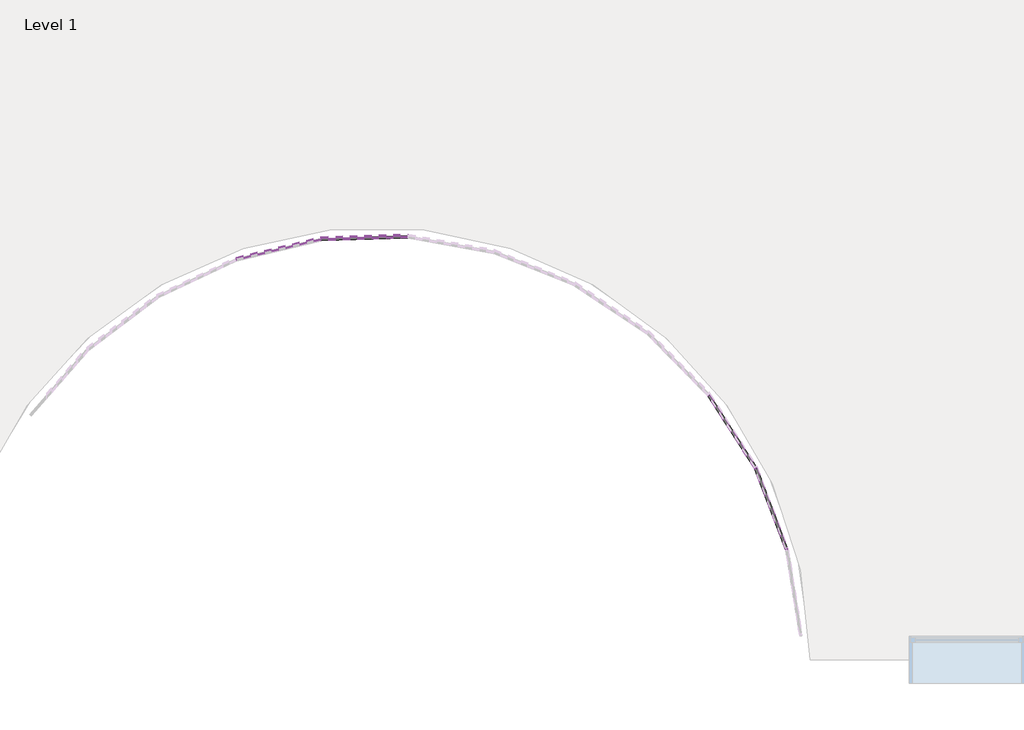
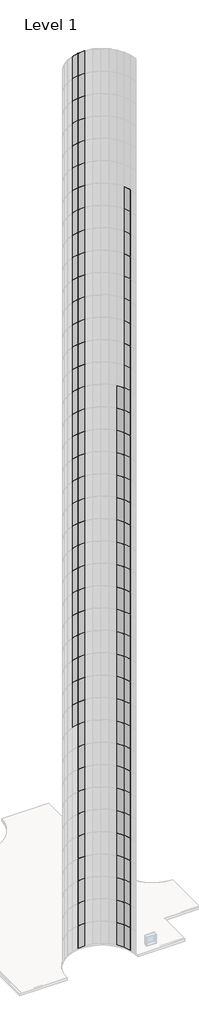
# One storey, part 8 of 19: 129 plates.
"""IFC4 building model written with IfcOpenShell, lengths in millimetres."""

from ifc_helpers import new_model, si_unit, origin, place, context, project, spatial, transform, mapped, element, save
from components import system_panel_glazed_d77d1ebf

model = new_model("IFC4")

# Units and contexts
model_context = context("Model", 3, world=origin())
ifc_project = project(units=[si_unit("LENGTHUNIT", "METRE", prefix="MILLI")], contexts=[model_context])

# Site, building, storey
site = spatial("IfcSite", under=ifc_project)
building = spatial("IfcBuilding", under=site)
storey = spatial("IfcBuildingStorey", under=building, Name="Level 1", Elevation=0.0)

# Plates
placement = place(None, origin())
system_panel_glazed_shape = system_panel_glazed_d77d1ebf(model_context)
element("IfcPlate", 1, ObjectType="System Panel : Glazed", at=placement, inside=storey, context=model_context, shape_type="MappedRepresentation", body=[
    mapped(system_panel_glazed_shape, transform((2482.9364739, -17126.4039912, 30480.0), x_axis=(-0.9722724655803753, -0.23385091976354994, 0.0), y_axis=(0.23385091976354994, -0.9722724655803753, 0.0), z_axis=(0.0, 0.0, 1.0))),
])
element("IfcPlate", 2, ObjectType="System Panel : Glazed", at=placement, inside=storey, context=model_context, shape_type="MappedRepresentation", body=[
    mapped(system_panel_glazed_shape, transform((2482.9364739, -17126.4039912, 33528.0), x_axis=(-0.9722724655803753, -0.23385091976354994, 0.0), y_axis=(0.23385091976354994, -0.9722724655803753, 0.0), z_axis=(0.0, 0.0, 1.0))),
])
element("IfcPlate", 3, ObjectType="System Panel : Glazed", at=placement, inside=storey, context=model_context, shape_type="MappedRepresentation", body=[
    mapped(system_panel_glazed_shape, transform((2482.9364739, -17126.4039912, 36576.0), x_axis=(-0.9722724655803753, -0.23385091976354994, 0.0), y_axis=(0.23385091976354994, -0.9722724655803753, 0.0), z_axis=(0.0, 0.0, 1.0))),
])
element("IfcPlate", 4, ObjectType="System Panel : Glazed", at=placement, inside=storey, context=model_context, shape_type="MappedRepresentation", body=[
    mapped(system_panel_glazed_shape, transform((2482.9364739, -17126.4039912, 39624.0), x_axis=(-0.9722724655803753, -0.23385091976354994, 0.0), y_axis=(0.23385091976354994, -0.9722724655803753, 0.0), z_axis=(0.0, 0.0, 1.0))),
])
element("IfcPlate", 5, ObjectType="System Panel : Glazed", at=placement, inside=storey, context=model_context, shape_type="MappedRepresentation", body=[
    mapped(system_panel_glazed_shape, transform((2482.9364739, -17126.4039912, 42672.0), x_axis=(-0.9722724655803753, -0.23385091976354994, 0.0), y_axis=(0.23385091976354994, -0.9722724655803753, 0.0), z_axis=(0.0, 0.0, 1.0))),
])
element("IfcPlate", 6, ObjectType="System Panel : Glazed", at=placement, inside=storey, context=model_context, shape_type="MappedRepresentation", body=[
    mapped(system_panel_glazed_shape, transform((2482.9364739, -17126.4039912, 45720.0), x_axis=(-0.9722724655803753, -0.23385091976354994, 0.0), y_axis=(0.23385091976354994, -0.9722724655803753, 0.0), z_axis=(0.0, 0.0, 1.0))),
])
element("IfcPlate", 7, ObjectType="System Panel : Glazed", at=placement, inside=storey, context=model_context, shape_type="MappedRepresentation", body=[
    mapped(system_panel_glazed_shape, transform((2482.9364739, -17126.4039912, 48768.0), x_axis=(-0.9722724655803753, -0.23385091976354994, 0.0), y_axis=(0.23385091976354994, -0.9722724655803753, 0.0), z_axis=(0.0, 0.0, 1.0))),
])
element("IfcPlate", 8, ObjectType="System Panel : Glazed", at=placement, inside=storey, context=model_context, shape_type="MappedRepresentation", body=[
    mapped(system_panel_glazed_shape, transform((2482.9364739, -17126.4039912, 51816.0), x_axis=(-0.9722724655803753, -0.23385091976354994, 0.0), y_axis=(0.23385091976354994, -0.9722724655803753, 0.0), z_axis=(0.0, 0.0, 1.0))),
])
element("IfcPlate", 9, ObjectType="System Panel : Glazed", at=placement, inside=storey, context=model_context, shape_type="MappedRepresentation", body=[
    mapped(system_panel_glazed_shape, transform((2482.9364739, -17126.4039912, 54864.0), x_axis=(-0.9722724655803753, -0.23385091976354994, 0.0), y_axis=(0.23385091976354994, -0.9722724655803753, 0.0), z_axis=(0.0, 0.0, 1.0))),
])
element("IfcPlate", 10, ObjectType="System Panel : Glazed", at=placement, inside=storey, context=model_context, shape_type="MappedRepresentation", body=[
    mapped(system_panel_glazed_shape, transform((2482.9364739, -17126.4039912, 57912.0), x_axis=(-0.9722724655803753, -0.23385091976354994, 0.0), y_axis=(0.23385091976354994, -0.9722724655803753, 0.0), z_axis=(0.0, 0.0, 1.0))),
])
element("IfcPlate", 11, ObjectType="System Panel : Glazed", at=placement, inside=storey, context=model_context, shape_type="MappedRepresentation", body=[
    mapped(system_panel_glazed_shape, transform((2482.9364739, -17126.4039912, 60960.0), x_axis=(-0.9722724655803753, -0.23385091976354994, 0.0), y_axis=(0.23385091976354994, -0.9722724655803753, 0.0), z_axis=(0.0, 0.0, 1.0))),
])
element("IfcPlate", 12, ObjectType="System Panel : Glazed", at=placement, inside=storey, context=model_context, shape_type="MappedRepresentation", body=[
    mapped(system_panel_glazed_shape, transform((2482.9364739, -17126.4039912, 64008.0), x_axis=(-0.9722724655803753, -0.23385091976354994, 0.0), y_axis=(0.23385091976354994, -0.9722724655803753, 0.0), z_axis=(0.0, 0.0, 1.0))),
])
element("IfcPlate", 13, ObjectType="System Panel : Glazed", at=placement, inside=storey, context=model_context, shape_type="MappedRepresentation", body=[
    mapped(system_panel_glazed_shape, transform((2482.9364739, -17126.4039912, 67056.0), x_axis=(-0.9722724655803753, -0.23385091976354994, 0.0), y_axis=(0.23385091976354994, -0.9722724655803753, 0.0), z_axis=(0.0, 0.0, 1.0))),
])
element("IfcPlate", 14, ObjectType="System Panel : Glazed", at=placement, inside=storey, context=model_context, shape_type="MappedRepresentation", body=[
    mapped(system_panel_glazed_shape, transform((2482.9364739, -17126.4039912, 70104.0), x_axis=(-0.9722724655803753, -0.23385091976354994, 0.0), y_axis=(0.23385091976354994, -0.9722724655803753, 0.0), z_axis=(0.0, 0.0, 1.0))),
])
element("IfcPlate", 15, ObjectType="System Panel : Glazed", at=placement, inside=storey, context=model_context, shape_type="MappedRepresentation", body=[
    mapped(system_panel_glazed_shape, transform((2482.9364739, -17126.4039912, 73152.0), x_axis=(-0.9722724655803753, -0.23385091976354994, 0.0), y_axis=(0.23385091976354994, -0.9722724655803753, 0.0), z_axis=(0.0, 0.0, 1.0))),
])
element("IfcPlate", 16, ObjectType="System Panel : Glazed", at=placement, inside=storey, context=model_context, shape_type="MappedRepresentation", body=[
    mapped(system_panel_glazed_shape, transform((2482.9364739, -17126.4039912, 76200.0), x_axis=(-0.9722724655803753, -0.23385091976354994, 0.0), y_axis=(0.23385091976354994, -0.9722724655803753, 0.0), z_axis=(0.0, 0.0, 1.0))),
])
element("IfcPlate", 17, ObjectType="System Panel : Glazed", at=placement, inside=storey, context=model_context, shape_type="MappedRepresentation", body=[
    mapped(system_panel_glazed_shape, transform((2482.9364739, -17126.4039912, 79248.0), x_axis=(-0.9722724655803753, -0.23385091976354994, 0.0), y_axis=(0.23385091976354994, -0.9722724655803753, 0.0), z_axis=(0.0, 0.0, 1.0))),
])
element("IfcPlate", 18, ObjectType="System Panel : Glazed", at=placement, inside=storey, context=model_context, shape_type="MappedRepresentation", body=[
    mapped(system_panel_glazed_shape, transform((2482.9364739, -17126.4039912, 82296.0), x_axis=(-0.9722724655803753, -0.23385091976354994, 0.0), y_axis=(0.23385091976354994, -0.9722724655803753, 0.0), z_axis=(0.0, 0.0, 1.0))),
])
element("IfcPlate", 19, ObjectType="System Panel : Glazed", at=placement, inside=storey, context=model_context, shape_type="MappedRepresentation", body=[
    mapped(system_panel_glazed_shape, transform((2482.9364739, -17126.4039912, 85344.0), x_axis=(-0.9722724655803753, -0.23385091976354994, 0.0), y_axis=(0.23385091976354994, -0.9722724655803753, 0.0), z_axis=(0.0, 0.0, 1.0))),
])
element("IfcPlate", 20, ObjectType="System Panel : Glazed", at=placement, inside=storey, context=model_context, shape_type="MappedRepresentation", body=[
    mapped(system_panel_glazed_shape, transform((2482.9364739, -17126.4039912, 88392.0), x_axis=(-0.9722724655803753, -0.23385091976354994, 0.0), y_axis=(0.23385091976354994, -0.9722724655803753, 0.0), z_axis=(0.0, 0.0, 1.0))),
])
element("IfcPlate", 21, ObjectType="System Panel : Glazed", at=placement, inside=storey, context=model_context, shape_type="MappedRepresentation", body=[
    mapped(system_panel_glazed_shape, transform((2482.9364739, -17126.4039912, 91440.0), x_axis=(-0.9722724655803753, -0.23385091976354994, 0.0), y_axis=(0.23385091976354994, -0.9722724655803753, 0.0), z_axis=(0.0, 0.0, 1.0))),
])
element("IfcPlate", 22, ObjectType="System Panel : Glazed", at=placement, inside=storey, context=model_context, shape_type="MappedRepresentation", body=[
    mapped(system_panel_glazed_shape, transform((2482.9364739, -17126.4039912, 94488.0), x_axis=(-0.9722724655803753, -0.23385091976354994, 0.0), y_axis=(0.23385091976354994, -0.9722724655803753, 0.0), z_axis=(0.0, 0.0, 1.0))),
])
element("IfcPlate", 23, ObjectType="System Panel : Glazed", at=placement, inside=storey, context=model_context, shape_type="MappedRepresentation", body=[
    mapped(system_panel_glazed_shape, transform((2482.9364739, -17126.4039912, 97536.0), x_axis=(-0.9722724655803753, -0.23385091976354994, 0.0), y_axis=(0.23385091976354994, -0.9722724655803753, 0.0), z_axis=(0.0, 0.0, 1.0))),
])
element("IfcPlate", 24, ObjectType="System Panel : Glazed", at=placement, inside=storey, context=model_context, shape_type="MappedRepresentation", body=[
    mapped(system_panel_glazed_shape, transform((2482.9364739, -17126.4039912, 100584.0), x_axis=(-0.9722724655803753, -0.23385091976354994, 0.0), y_axis=(0.23385091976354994, -0.9722724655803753, 0.0), z_axis=(0.0, 0.0, 1.0))),
])
element("IfcPlate", 25, ObjectType="System Panel : Glazed", at=placement, inside=storey, context=model_context, shape_type="MappedRepresentation", body=[
    mapped(system_panel_glazed_shape, transform((7650.278647, -19847.6713508, 0.0), x_axis=(-0.35724345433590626, 0.9340113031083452, 0.0), y_axis=(-0.9340113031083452, -0.35724345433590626, 0.0), z_axis=(0.0, 0.0, 1.0))),
])
element("IfcPlate", 26, ObjectType="System Panel : Glazed", at=placement, inside=storey, context=model_context, shape_type="MappedRepresentation", body=[
    mapped(system_panel_glazed_shape, transform((7650.278647, -19847.6713508, 3048.0), x_axis=(-0.35724345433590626, 0.9340113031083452, 0.0), y_axis=(-0.9340113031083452, -0.35724345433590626, 0.0), z_axis=(0.0, 0.0, 1.0))),
])
element("IfcPlate", 27, ObjectType="System Panel : Glazed", at=placement, inside=storey, context=model_context, shape_type="MappedRepresentation", body=[
    mapped(system_panel_glazed_shape, transform((7650.278647, -19847.6713508, 6096.0), x_axis=(-0.35724345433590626, 0.9340113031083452, 0.0), y_axis=(-0.9340113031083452, -0.35724345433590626, 0.0), z_axis=(0.0, 0.0, 1.0))),
])
element("IfcPlate", 28, ObjectType="System Panel : Glazed", at=placement, inside=storey, context=model_context, shape_type="MappedRepresentation", body=[
    mapped(system_panel_glazed_shape, transform((7650.278647, -19847.6713508, 9144.0), x_axis=(-0.35724345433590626, 0.9340113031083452, 0.0), y_axis=(-0.9340113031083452, -0.35724345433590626, 0.0), z_axis=(0.0, 0.0, 1.0))),
])
element("IfcPlate", 29, ObjectType="System Panel : Glazed", at=placement, inside=storey, context=model_context, shape_type="MappedRepresentation", body=[
    mapped(system_panel_glazed_shape, transform((7650.278647, -19847.6713508, 12192.0), x_axis=(-0.35724345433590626, 0.9340113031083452, 0.0), y_axis=(-0.9340113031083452, -0.35724345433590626, 0.0), z_axis=(0.0, 0.0, 1.0))),
])
element("IfcPlate", 30, ObjectType="System Panel : Glazed", at=placement, inside=storey, context=model_context, shape_type="MappedRepresentation", body=[
    mapped(system_panel_glazed_shape, transform((7650.278647, -19847.6713508, 15240.0), x_axis=(-0.35724345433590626, 0.9340113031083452, 0.0), y_axis=(-0.9340113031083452, -0.35724345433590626, 0.0), z_axis=(0.0, 0.0, 1.0))),
])
element("IfcPlate", 31, ObjectType="System Panel : Glazed", at=placement, inside=storey, context=model_context, shape_type="MappedRepresentation", body=[
    mapped(system_panel_glazed_shape, transform((7650.278647, -19847.6713508, 18288.0), x_axis=(-0.35724345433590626, 0.9340113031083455, 0.0), y_axis=(-0.9340113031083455, -0.35724345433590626, 0.0), z_axis=(0.0, 0.0, 1.0))),
])
element("IfcPlate", 32, ObjectType="System Panel : Glazed", at=placement, inside=storey, context=model_context, shape_type="MappedRepresentation", body=[
    mapped(system_panel_glazed_shape, transform((7650.278647, -19847.6713508, 21336.0), x_axis=(-0.35724345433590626, 0.9340113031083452, 0.0), y_axis=(-0.9340113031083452, -0.35724345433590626, 0.0), z_axis=(0.0, 0.0, 1.0))),
])
element("IfcPlate", 33, ObjectType="System Panel : Glazed", at=placement, inside=storey, context=model_context, shape_type="MappedRepresentation", body=[
    mapped(system_panel_glazed_shape, transform((7650.278647, -19847.6713508, 24384.0), x_axis=(-0.35724345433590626, 0.9340113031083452, 0.0), y_axis=(-0.9340113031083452, -0.35724345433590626, 0.0), z_axis=(0.0, 0.0, 1.0))),
])
element("IfcPlate", 34, ObjectType="System Panel : Glazed", at=placement, inside=storey, context=model_context, shape_type="MappedRepresentation", body=[
    mapped(system_panel_glazed_shape, transform((7650.278647, -19847.6713508, 27432.0), x_axis=(-0.35724345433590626, 0.9340113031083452, 0.0), y_axis=(-0.9340113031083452, -0.35724345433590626, 0.0), z_axis=(0.0, 0.0, 1.0))),
])
element("IfcPlate", 35, ObjectType="System Panel : Glazed", at=placement, inside=storey, context=model_context, shape_type="MappedRepresentation", body=[
    mapped(system_panel_glazed_shape, transform((7650.278647, -19847.6713508, 30480.0), x_axis=(-0.35724345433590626, 0.9340113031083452, 0.0), y_axis=(-0.9340113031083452, -0.35724345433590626, 0.0), z_axis=(0.0, 0.0, 1.0))),
])
element("IfcPlate", 36, ObjectType="System Panel : Glazed", at=placement, inside=storey, context=model_context, shape_type="MappedRepresentation", body=[
    mapped(system_panel_glazed_shape, transform((7650.278647, -19847.6713508, 33528.0), x_axis=(-0.35724345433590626, 0.9340113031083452, 0.0), y_axis=(-0.9340113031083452, -0.35724345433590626, 0.0), z_axis=(0.0, 0.0, 1.0))),
])
element("IfcPlate", 37, ObjectType="System Panel : Glazed", at=placement, inside=storey, context=model_context, shape_type="MappedRepresentation", body=[
    mapped(system_panel_glazed_shape, transform((7650.278647, -19847.6713508, 36576.0), x_axis=(-0.35724345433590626, 0.9340113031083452, 0.0), y_axis=(-0.9340113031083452, -0.35724345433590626, 0.0), z_axis=(0.0, 0.0, 1.0))),
])
element("IfcPlate", 38, ObjectType="System Panel : Glazed", at=placement, inside=storey, context=model_context, shape_type="MappedRepresentation", body=[
    mapped(system_panel_glazed_shape, transform((7650.278647, -19847.6713508, 39624.0), x_axis=(-0.35724345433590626, 0.9340113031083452, 0.0), y_axis=(-0.9340113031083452, -0.35724345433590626, 0.0), z_axis=(0.0, 0.0, 1.0))),
])
element("IfcPlate", 39, ObjectType="System Panel : Glazed", at=placement, inside=storey, context=model_context, shape_type="MappedRepresentation", body=[
    mapped(system_panel_glazed_shape, transform((7650.278647, -19847.6713508, 42672.0), x_axis=(-0.35724345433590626, 0.9340113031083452, 0.0), y_axis=(-0.9340113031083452, -0.35724345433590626, 0.0), z_axis=(0.0, 0.0, 1.0))),
])
element("IfcPlate", 40, ObjectType="System Panel : Glazed", at=placement, inside=storey, context=model_context, shape_type="MappedRepresentation", body=[
    mapped(system_panel_glazed_shape, transform((7650.278647, -19847.6713508, 45720.0), x_axis=(-0.35724345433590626, 0.9340113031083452, 0.0), y_axis=(-0.9340113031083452, -0.35724345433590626, 0.0), z_axis=(0.0, 0.0, 1.0))),
])
element("IfcPlate", 41, ObjectType="System Panel : Glazed", at=placement, inside=storey, context=model_context, shape_type="MappedRepresentation", body=[
    mapped(system_panel_glazed_shape, transform((7650.278647, -19847.6713508, 48768.0), x_axis=(-0.35724345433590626, 0.9340113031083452, 0.0), y_axis=(-0.9340113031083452, -0.35724345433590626, 0.0), z_axis=(0.0, 0.0, 1.0))),
])
element("IfcPlate", 42, ObjectType="System Panel : Glazed", at=placement, inside=storey, context=model_context, shape_type="MappedRepresentation", body=[
    mapped(system_panel_glazed_shape, transform((7650.278647, -19847.6713508, 51816.0), x_axis=(-0.35724345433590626, 0.9340113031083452, 0.0), y_axis=(-0.9340113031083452, -0.35724345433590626, 0.0), z_axis=(0.0, 0.0, 1.0))),
])
element("IfcPlate", 43, ObjectType="System Panel : Glazed", at=placement, inside=storey, context=model_context, shape_type="MappedRepresentation", body=[
    mapped(system_panel_glazed_shape, transform((7650.278647, -19847.6713508, 54864.0), x_axis=(-0.35724345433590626, 0.9340113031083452, 0.0), y_axis=(-0.9340113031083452, -0.35724345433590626, 0.0), z_axis=(0.0, 0.0, 1.0))),
])
element("IfcPlate", 44, ObjectType="System Panel : Glazed", at=placement, inside=storey, context=model_context, shape_type="MappedRepresentation", body=[
    mapped(system_panel_glazed_shape, transform((7650.278647, -19847.6713508, 57912.0), x_axis=(-0.35724345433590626, 0.9340113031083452, 0.0), y_axis=(-0.9340113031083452, -0.35724345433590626, 0.0), z_axis=(0.0, 0.0, 1.0))),
])
element("IfcPlate", 45, ObjectType="System Panel : Glazed", at=placement, inside=storey, context=model_context, shape_type="MappedRepresentation", body=[
    mapped(system_panel_glazed_shape, transform((7650.278647, -19847.6713508, 60960.0), x_axis=(-0.35724345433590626, 0.9340113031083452, 0.0), y_axis=(-0.9340113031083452, -0.35724345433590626, 0.0), z_axis=(0.0, 0.0, 1.0))),
])
element("IfcPlate", 46, ObjectType="System Panel : Glazed", at=placement, inside=storey, context=model_context, shape_type="MappedRepresentation", body=[
    mapped(system_panel_glazed_shape, transform((7650.278647, -19847.6713508, 64008.0), x_axis=(-0.35724345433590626, 0.9340113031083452, 0.0), y_axis=(-0.9340113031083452, -0.35724345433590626, 0.0), z_axis=(0.0, 0.0, 1.0))),
])
element("IfcPlate", 47, ObjectType="System Panel : Glazed", at=placement, inside=storey, context=model_context, shape_type="MappedRepresentation", body=[
    mapped(system_panel_glazed_shape, transform((7650.278647, -19847.6713508, 67056.0), x_axis=(-0.35724345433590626, 0.9340113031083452, 0.0), y_axis=(-0.9340113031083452, -0.35724345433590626, 0.0), z_axis=(0.0, 0.0, 1.0))),
])
element("IfcPlate", 48, ObjectType="System Panel : Glazed", at=placement, inside=storey, context=model_context, shape_type="MappedRepresentation", body=[
    mapped(system_panel_glazed_shape, transform((7650.278647, -19847.6713508, 70104.0), x_axis=(-0.35724345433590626, 0.9340113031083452, 0.0), y_axis=(-0.9340113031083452, -0.35724345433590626, 0.0), z_axis=(0.0, 0.0, 1.0))),
])
element("IfcPlate", 49, ObjectType="System Panel : Glazed", at=placement, inside=storey, context=model_context, shape_type="MappedRepresentation", body=[
    mapped(system_panel_glazed_shape, transform((7650.278647, -19847.6713508, 73152.0), x_axis=(-0.35724345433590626, 0.9340113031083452, 0.0), y_axis=(-0.9340113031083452, -0.35724345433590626, 0.0), z_axis=(0.0, 0.0, 1.0))),
])
element("IfcPlate", 50, ObjectType="System Panel : Glazed", at=placement, inside=storey, context=model_context, shape_type="MappedRepresentation", body=[
    mapped(system_panel_glazed_shape, transform((7650.278647, -19847.6713508, 76200.0), x_axis=(-0.35724345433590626, 0.9340113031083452, 0.0), y_axis=(-0.9340113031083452, -0.35724345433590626, 0.0), z_axis=(0.0, 0.0, 1.0))),
])
element("IfcPlate", 51, ObjectType="System Panel : Glazed", at=placement, inside=storey, context=model_context, shape_type="MappedRepresentation", body=[
    mapped(system_panel_glazed_shape, transform((7650.278647, -19847.6713508, 79248.0), x_axis=(-0.35724345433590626, 0.9340113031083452, 0.0), y_axis=(-0.9340113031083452, -0.35724345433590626, 0.0), z_axis=(0.0, 0.0, 1.0))),
])
element("IfcPlate", 52, ObjectType="System Panel : Glazed", at=placement, inside=storey, context=model_context, shape_type="MappedRepresentation", body=[
    mapped(system_panel_glazed_shape, transform((7650.278647, -19847.6713508, 82296.0), x_axis=(-0.35724345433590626, 0.9340113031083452, 0.0), y_axis=(-0.9340113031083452, -0.35724345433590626, 0.0), z_axis=(0.0, 0.0, 1.0))),
])
element("IfcPlate", 53, ObjectType="System Panel : Glazed", at=placement, inside=storey, context=model_context, shape_type="MappedRepresentation", body=[
    mapped(system_panel_glazed_shape, transform((7650.278647, -19847.6713508, 85344.0), x_axis=(-0.35724345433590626, 0.9340113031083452, 0.0), y_axis=(-0.9340113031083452, -0.35724345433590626, 0.0), z_axis=(0.0, 0.0, 1.0))),
])
element("IfcPlate", 54, ObjectType="System Panel : Glazed", at=placement, inside=storey, context=model_context, shape_type="MappedRepresentation", body=[
    mapped(system_panel_glazed_shape, transform((7650.278647, -19847.6713508, 88392.0), x_axis=(-0.35724345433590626, 0.9340113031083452, 0.0), y_axis=(-0.9340113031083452, -0.35724345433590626, 0.0), z_axis=(0.0, 0.0, 1.0))),
])
element("IfcPlate", 55, ObjectType="System Panel : Glazed", at=placement, inside=storey, context=model_context, shape_type="MappedRepresentation", body=[
    mapped(system_panel_glazed_shape, transform((7650.278647, -19847.6713508, 91440.0), x_axis=(-0.35724345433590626, 0.9340113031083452, 0.0), y_axis=(-0.9340113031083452, -0.35724345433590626, 0.0), z_axis=(0.0, 0.0, 1.0))),
])
element("IfcPlate", 56, ObjectType="System Panel : Glazed", at=placement, inside=storey, context=model_context, shape_type="MappedRepresentation", body=[
    mapped(system_panel_glazed_shape, transform((7650.278647, -19847.6713508, 94488.0), x_axis=(-0.35724345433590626, 0.9340113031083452, 0.0), y_axis=(-0.9340113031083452, -0.35724345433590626, 0.0), z_axis=(0.0, 0.0, 1.0))),
])
element("IfcPlate", 57, ObjectType="System Panel : Glazed", at=placement, inside=storey, context=model_context, shape_type="MappedRepresentation", body=[
    mapped(system_panel_glazed_shape, transform((7650.278647, -19847.6713508, 97536.0), x_axis=(-0.35724345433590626, 0.9340113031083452, 0.0), y_axis=(-0.9340113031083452, -0.35724345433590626, 0.0), z_axis=(0.0, 0.0, 1.0))),
])
element("IfcPlate", 58, ObjectType="System Panel : Glazed", at=placement, inside=storey, context=model_context, shape_type="MappedRepresentation", body=[
    mapped(system_panel_glazed_shape, transform((7650.278647, -19847.6713508, 100584.0), x_axis=(-0.35724345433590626, 0.9340113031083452, 0.0), y_axis=(-0.9340113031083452, -0.35724345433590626, 0.0), z_axis=(0.0, 0.0, 1.0))),
])
element("IfcPlate", 59, ObjectType="System Panel : Glazed", at=placement, inside=storey, context=model_context, shape_type="MappedRepresentation", body=[
    mapped(system_panel_glazed_shape, transform((7239.747729, -19036.0319834, 0.0), x_axis=(-0.5406806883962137, 0.8412279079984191, 0.0), y_axis=(-0.8412279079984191, -0.5406806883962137, 0.0), z_axis=(0.0, 0.0, 1.0))),
])
element("IfcPlate", 60, ObjectType="System Panel : Glazed", at=placement, inside=storey, context=model_context, shape_type="MappedRepresentation", body=[
    mapped(system_panel_glazed_shape, transform((7239.747729, -19036.0319834, 3048.0), x_axis=(-0.5406806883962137, 0.8412279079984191, 0.0), y_axis=(-0.8412279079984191, -0.5406806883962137, 0.0), z_axis=(0.0, 0.0, 1.0))),
])
element("IfcPlate", 61, ObjectType="System Panel : Glazed", at=placement, inside=storey, context=model_context, shape_type="MappedRepresentation", body=[
    mapped(system_panel_glazed_shape, transform((7239.747729, -19036.0319834, 6096.0), x_axis=(-0.5406806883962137, 0.8412279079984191, 0.0), y_axis=(-0.8412279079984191, -0.5406806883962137, 0.0), z_axis=(0.0, 0.0, 1.0))),
])
element("IfcPlate", 62, ObjectType="System Panel : Glazed", at=placement, inside=storey, context=model_context, shape_type="MappedRepresentation", body=[
    mapped(system_panel_glazed_shape, transform((7239.747729, -19036.0319834, 9144.0), x_axis=(-0.5406806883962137, 0.8412279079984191, 0.0), y_axis=(-0.8412279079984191, -0.5406806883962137, 0.0), z_axis=(0.0, 0.0, 1.0))),
])
element("IfcPlate", 63, ObjectType="System Panel : Glazed", at=placement, inside=storey, context=model_context, shape_type="MappedRepresentation", body=[
    mapped(system_panel_glazed_shape, transform((7239.747729, -19036.0319834, 12192.0), x_axis=(-0.5406806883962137, 0.8412279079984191, 0.0), y_axis=(-0.8412279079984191, -0.5406806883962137, 0.0), z_axis=(0.0, 0.0, 1.0))),
])
element("IfcPlate", 64, ObjectType="System Panel : Glazed", at=placement, inside=storey, context=model_context, shape_type="MappedRepresentation", body=[
    mapped(system_panel_glazed_shape, transform((7239.747729, -19036.0319834, 15240.0), x_axis=(-0.5406806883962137, 0.8412279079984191, 0.0), y_axis=(-0.8412279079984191, -0.5406806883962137, 0.0), z_axis=(0.0, 0.0, 1.0))),
])
element("IfcPlate", 65, ObjectType="System Panel : Glazed", at=placement, inside=storey, context=model_context, shape_type="MappedRepresentation", body=[
    mapped(system_panel_glazed_shape, transform((7239.747729, -19036.0319834, 18288.0), x_axis=(-0.5406806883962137, 0.8412279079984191, 0.0), y_axis=(-0.8412279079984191, -0.5406806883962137, 0.0), z_axis=(0.0, 0.0, 1.0))),
])
element("IfcPlate", 66, ObjectType="System Panel : Glazed", at=placement, inside=storey, context=model_context, shape_type="MappedRepresentation", body=[
    mapped(system_panel_glazed_shape, transform((7239.747729, -19036.0319834, 21336.0), x_axis=(-0.5406806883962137, 0.8412279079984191, 0.0), y_axis=(-0.8412279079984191, -0.5406806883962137, 0.0), z_axis=(0.0, 0.0, 1.0))),
])
element("IfcPlate", 67, ObjectType="System Panel : Glazed", at=placement, inside=storey, context=model_context, shape_type="MappedRepresentation", body=[
    mapped(system_panel_glazed_shape, transform((7239.747729, -19036.0319834, 24384.0), x_axis=(-0.5406806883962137, 0.8412279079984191, 0.0), y_axis=(-0.8412279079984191, -0.5406806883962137, 0.0), z_axis=(0.0, 0.0, 1.0))),
])
element("IfcPlate", 68, ObjectType="System Panel : Glazed", at=placement, inside=storey, context=model_context, shape_type="MappedRepresentation", body=[
    mapped(system_panel_glazed_shape, transform((7239.747729, -19036.0319834, 27432.0), x_axis=(-0.5406806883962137, 0.8412279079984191, 0.0), y_axis=(-0.8412279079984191, -0.5406806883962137, 0.0), z_axis=(0.0, 0.0, 1.0))),
])
element("IfcPlate", 69, ObjectType="System Panel : Glazed", at=placement, inside=storey, context=model_context, shape_type="MappedRepresentation", body=[
    mapped(system_panel_glazed_shape, transform((7239.747729, -19036.0319834, 30480.0), x_axis=(-0.5406806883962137, 0.8412279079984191, 0.0), y_axis=(-0.8412279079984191, -0.5406806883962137, 0.0), z_axis=(0.0, 0.0, 1.0))),
])
element("IfcPlate", 70, ObjectType="System Panel : Glazed", at=placement, inside=storey, context=model_context, shape_type="MappedRepresentation", body=[
    mapped(system_panel_glazed_shape, transform((7239.747729, -19036.0319834, 33528.0), x_axis=(-0.5406806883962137, 0.8412279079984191, 0.0), y_axis=(-0.8412279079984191, -0.5406806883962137, 0.0), z_axis=(0.0, 0.0, 1.0))),
])
element("IfcPlate", 71, ObjectType="System Panel : Glazed", at=placement, inside=storey, context=model_context, shape_type="MappedRepresentation", body=[
    mapped(system_panel_glazed_shape, transform((7239.747729, -19036.0319834, 36576.0), x_axis=(-0.5406806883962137, 0.8412279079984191, 0.0), y_axis=(-0.8412279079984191, -0.5406806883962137, 0.0), z_axis=(0.0, 0.0, 1.0))),
])
element("IfcPlate", 72, ObjectType="System Panel : Glazed", at=placement, inside=storey, context=model_context, shape_type="MappedRepresentation", body=[
    mapped(system_panel_glazed_shape, transform((7239.747729, -19036.0319834, 39624.0), x_axis=(-0.5406806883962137, 0.8412279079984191, 0.0), y_axis=(-0.8412279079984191, -0.5406806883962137, 0.0), z_axis=(0.0, 0.0, 1.0))),
])
element("IfcPlate", 73, ObjectType="System Panel : Glazed", at=placement, inside=storey, context=model_context, shape_type="MappedRepresentation", body=[
    mapped(system_panel_glazed_shape, transform((7239.747729, -19036.0319834, 42672.0), x_axis=(-0.5406806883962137, 0.8412279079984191, 0.0), y_axis=(-0.8412279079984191, -0.5406806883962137, 0.0), z_axis=(0.0, 0.0, 1.0))),
])
element("IfcPlate", 74, ObjectType="System Panel : Glazed", at=placement, inside=storey, context=model_context, shape_type="MappedRepresentation", body=[
    mapped(system_panel_glazed_shape, transform((7239.747729, -19036.0319834, 45720.0), x_axis=(-0.5406806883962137, 0.8412279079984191, 0.0), y_axis=(-0.8412279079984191, -0.5406806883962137, 0.0), z_axis=(0.0, 0.0, 1.0))),
])
element("IfcPlate", 75, ObjectType="System Panel : Glazed", at=placement, inside=storey, context=model_context, shape_type="MappedRepresentation", body=[
    mapped(system_panel_glazed_shape, transform((7239.747729, -19036.0319834, 48768.0), x_axis=(-0.5406806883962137, 0.8412279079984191, 0.0), y_axis=(-0.8412279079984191, -0.5406806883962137, 0.0), z_axis=(0.0, 0.0, 1.0))),
])
element("IfcPlate", 76, ObjectType="System Panel : Glazed", at=placement, inside=storey, context=model_context, shape_type="MappedRepresentation", body=[
    mapped(system_panel_glazed_shape, transform((7239.747729, -19036.0319834, 51816.0), x_axis=(-0.5406806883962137, 0.8412279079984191, 0.0), y_axis=(-0.8412279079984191, -0.5406806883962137, 0.0), z_axis=(0.0, 0.0, 1.0))),
])
element("IfcPlate", 77, ObjectType="System Panel : Glazed", at=placement, inside=storey, context=model_context, shape_type="MappedRepresentation", body=[
    mapped(system_panel_glazed_shape, transform((7239.747729, -19036.0319834, 54864.0), x_axis=(-0.5406806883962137, 0.8412279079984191, 0.0), y_axis=(-0.8412279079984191, -0.5406806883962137, 0.0), z_axis=(0.0, 0.0, 1.0))),
])
element("IfcPlate", 78, ObjectType="System Panel : Glazed", at=placement, inside=storey, context=model_context, shape_type="MappedRepresentation", body=[
    mapped(system_panel_glazed_shape, transform((7239.747729, -19036.0319834, 57912.0), x_axis=(-0.5406806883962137, 0.8412279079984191, 0.0), y_axis=(-0.8412279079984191, -0.5406806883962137, 0.0), z_axis=(0.0, 0.0, 1.0))),
])
element("IfcPlate", 79, ObjectType="System Panel : Glazed", at=placement, inside=storey, context=model_context, shape_type="MappedRepresentation", body=[
    mapped(system_panel_glazed_shape, transform((7239.747729, -19036.0319834, 60960.0), x_axis=(-0.5406806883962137, 0.8412279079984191, 0.0), y_axis=(-0.8412279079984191, -0.5406806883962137, 0.0), z_axis=(0.0, 0.0, 1.0))),
])
element("IfcPlate", 80, ObjectType="System Panel : Glazed", at=placement, inside=storey, context=model_context, shape_type="MappedRepresentation", body=[
    mapped(system_panel_glazed_shape, transform((7239.747729, -19036.0319834, 64008.0), x_axis=(-0.5406806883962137, 0.8412279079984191, 0.0), y_axis=(-0.8412279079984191, -0.5406806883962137, 0.0), z_axis=(0.0, 0.0, 1.0))),
])
element("IfcPlate", 81, ObjectType="System Panel : Glazed", at=placement, inside=storey, context=model_context, shape_type="MappedRepresentation", body=[
    mapped(system_panel_glazed_shape, transform((7239.747729, -19036.0319834, 67056.0), x_axis=(-0.5406806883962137, 0.8412279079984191, 0.0), y_axis=(-0.8412279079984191, -0.5406806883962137, 0.0), z_axis=(0.0, 0.0, 1.0))),
])
element("IfcPlate", 82, ObjectType="System Panel : Glazed", at=placement, inside=storey, context=model_context, shape_type="MappedRepresentation", body=[
    mapped(system_panel_glazed_shape, transform((7239.747729, -19036.0319834, 70104.0), x_axis=(-0.5406806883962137, 0.8412279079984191, 0.0), y_axis=(-0.8412279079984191, -0.5406806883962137, 0.0), z_axis=(0.0, 0.0, 1.0))),
])
element("IfcPlate", 83, ObjectType="System Panel : Glazed", at=placement, inside=storey, context=model_context, shape_type="MappedRepresentation", body=[
    mapped(system_panel_glazed_shape, transform((7239.747729, -19036.0319834, 73152.0), x_axis=(-0.5406806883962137, 0.8412279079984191, 0.0), y_axis=(-0.8412279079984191, -0.5406806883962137, 0.0), z_axis=(0.0, 0.0, 1.0))),
])
element("IfcPlate", 84, ObjectType="System Panel : Glazed", at=placement, inside=storey, context=model_context, shape_type="MappedRepresentation", body=[
    mapped(system_panel_glazed_shape, transform((3384.4522724, -17005.7252347, 0.0), x_axis=(-0.9995468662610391, -0.030100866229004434, 0.0), y_axis=(0.030100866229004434, -0.9995468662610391, 0.0), z_axis=(0.0, 0.0, 1.0))),
])
element("IfcPlate", 85, ObjectType="System Panel : Glazed", at=placement, inside=storey, context=model_context, shape_type="MappedRepresentation", body=[
    mapped(system_panel_glazed_shape, transform((3384.4522724, -17005.7252347, 3048.0), x_axis=(-0.9995468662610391, -0.030100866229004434, 0.0), y_axis=(0.030100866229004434, -0.9995468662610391, 0.0), z_axis=(0.0, 0.0, 1.0))),
])
element("IfcPlate", 86, ObjectType="System Panel : Glazed", at=placement, inside=storey, context=model_context, shape_type="MappedRepresentation", body=[
    mapped(system_panel_glazed_shape, transform((3384.4522724, -17005.7252347, 6096.0), x_axis=(-0.9995468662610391, -0.030100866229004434, 0.0), y_axis=(0.030100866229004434, -0.9995468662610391, 0.0), z_axis=(0.0, 0.0, 1.0))),
])
element("IfcPlate", 87, ObjectType="System Panel : Glazed", at=placement, inside=storey, context=model_context, shape_type="MappedRepresentation", body=[
    mapped(system_panel_glazed_shape, transform((3384.4522724, -17005.7252347, 9144.0), x_axis=(-0.9995468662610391, -0.030100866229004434, 0.0), y_axis=(0.030100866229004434, -0.9995468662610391, 0.0), z_axis=(0.0, 0.0, 1.0))),
])
element("IfcPlate", 88, ObjectType="System Panel : Glazed", at=placement, inside=storey, context=model_context, shape_type="MappedRepresentation", body=[
    mapped(system_panel_glazed_shape, transform((3384.4522724, -17005.7252347, 12192.0), x_axis=(-0.9995468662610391, -0.030100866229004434, 0.0), y_axis=(0.030100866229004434, -0.9995468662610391, 0.0), z_axis=(0.0, 0.0, 1.0))),
])
element("IfcPlate", 89, ObjectType="System Panel : Glazed", at=placement, inside=storey, context=model_context, shape_type="MappedRepresentation", body=[
    mapped(system_panel_glazed_shape, transform((3384.4522724, -17005.7252347, 15240.0), x_axis=(-0.9995468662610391, -0.030100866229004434, 0.0), y_axis=(0.030100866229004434, -0.9995468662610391, 0.0), z_axis=(0.0, 0.0, 1.0))),
])
element("IfcPlate", 90, ObjectType="System Panel : Glazed", at=placement, inside=storey, context=model_context, shape_type="MappedRepresentation", body=[
    mapped(system_panel_glazed_shape, transform((3384.4522724, -17005.7252347, 18288.0), x_axis=(-0.9995468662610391, -0.03010086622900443, 0.0), y_axis=(0.03010086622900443, -0.9995468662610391, 0.0), z_axis=(0.0, 0.0, 1.0))),
])
element("IfcPlate", 91, ObjectType="System Panel : Glazed", at=placement, inside=storey, context=model_context, shape_type="MappedRepresentation", body=[
    mapped(system_panel_glazed_shape, transform((3384.4522724, -17005.7252347, 21336.0), x_axis=(-0.9995468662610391, -0.030100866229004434, 0.0), y_axis=(0.030100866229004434, -0.9995468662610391, 0.0), z_axis=(0.0, 0.0, 1.0))),
])
element("IfcPlate", 92, ObjectType="System Panel : Glazed", at=placement, inside=storey, context=model_context, shape_type="MappedRepresentation", body=[
    mapped(system_panel_glazed_shape, transform((3384.4522724, -17005.7252347, 24384.0), x_axis=(-0.9995468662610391, -0.030100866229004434, 0.0), y_axis=(0.030100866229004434, -0.9995468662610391, 0.0), z_axis=(0.0, 0.0, 1.0))),
])
element("IfcPlate", 93, ObjectType="System Panel : Glazed", at=placement, inside=storey, context=model_context, shape_type="MappedRepresentation", body=[
    mapped(system_panel_glazed_shape, transform((3384.4522724, -17005.7252347, 27432.0), x_axis=(-0.9995468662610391, -0.030100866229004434, 0.0), y_axis=(0.030100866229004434, -0.9995468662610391, 0.0), z_axis=(0.0, 0.0, 1.0))),
])
element("IfcPlate", 94, ObjectType="System Panel : Glazed", at=placement, inside=storey, context=model_context, shape_type="MappedRepresentation", body=[
    mapped(system_panel_glazed_shape, transform((3384.4522724, -17005.7252347, 30480.0), x_axis=(-0.9995468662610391, -0.030100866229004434, 0.0), y_axis=(0.030100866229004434, -0.9995468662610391, 0.0), z_axis=(0.0, 0.0, 1.0))),
])
element("IfcPlate", 95, ObjectType="System Panel : Glazed", at=placement, inside=storey, context=model_context, shape_type="MappedRepresentation", body=[
    mapped(system_panel_glazed_shape, transform((3384.4522724, -17005.7252347, 33528.0), x_axis=(-0.9995468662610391, -0.030100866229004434, 0.0), y_axis=(0.030100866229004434, -0.9995468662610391, 0.0), z_axis=(0.0, 0.0, 1.0))),
])
element("IfcPlate", 96, ObjectType="System Panel : Glazed", at=placement, inside=storey, context=model_context, shape_type="MappedRepresentation", body=[
    mapped(system_panel_glazed_shape, transform((3384.4522724, -17005.7252347, 36576.0), x_axis=(-0.9995468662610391, -0.030100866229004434, 0.0), y_axis=(0.030100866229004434, -0.9995468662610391, 0.0), z_axis=(0.0, 0.0, 1.0))),
])
element("IfcPlate", 97, ObjectType="System Panel : Glazed", at=placement, inside=storey, context=model_context, shape_type="MappedRepresentation", body=[
    mapped(system_panel_glazed_shape, transform((3384.4522724, -17005.7252347, 39624.0), x_axis=(-0.9995468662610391, -0.030100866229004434, 0.0), y_axis=(0.030100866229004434, -0.9995468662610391, 0.0), z_axis=(0.0, 0.0, 1.0))),
])
element("IfcPlate", 98, ObjectType="System Panel : Glazed", at=placement, inside=storey, context=model_context, shape_type="MappedRepresentation", body=[
    mapped(system_panel_glazed_shape, transform((3384.4522724, -17005.7252347, 42672.0), x_axis=(-0.9995468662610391, -0.030100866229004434, 0.0), y_axis=(0.030100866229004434, -0.9995468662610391, 0.0), z_axis=(0.0, 0.0, 1.0))),
])
element("IfcPlate", 99, ObjectType="System Panel : Glazed", at=placement, inside=storey, context=model_context, shape_type="MappedRepresentation", body=[
    mapped(system_panel_glazed_shape, transform((3384.4522724, -17005.7252347, 45720.0), x_axis=(-0.9995468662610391, -0.030100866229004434, 0.0), y_axis=(0.030100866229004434, -0.9995468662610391, 0.0), z_axis=(0.0, 0.0, 1.0))),
])
element("IfcPlate", 100, ObjectType="System Panel : Glazed", at=placement, inside=storey, context=model_context, shape_type="MappedRepresentation", body=[
    mapped(system_panel_glazed_shape, transform((3384.4522724, -17005.7252347, 48768.0), x_axis=(-0.9995468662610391, -0.030100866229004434, 0.0), y_axis=(0.030100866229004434, -0.9995468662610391, 0.0), z_axis=(0.0, 0.0, 1.0))),
])
element("IfcPlate", 101, ObjectType="System Panel : Glazed", at=placement, inside=storey, context=model_context, shape_type="MappedRepresentation", body=[
    mapped(system_panel_glazed_shape, transform((3384.4522724, -17005.7252347, 51816.0), x_axis=(-0.9995468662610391, -0.030100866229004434, 0.0), y_axis=(0.030100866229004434, -0.9995468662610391, 0.0), z_axis=(0.0, 0.0, 1.0))),
])
element("IfcPlate", 102, ObjectType="System Panel : Glazed", at=placement, inside=storey, context=model_context, shape_type="MappedRepresentation", body=[
    mapped(system_panel_glazed_shape, transform((3384.4522724, -17005.7252347, 54864.0), x_axis=(-0.9995468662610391, -0.030100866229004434, 0.0), y_axis=(0.030100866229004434, -0.9995468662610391, 0.0), z_axis=(0.0, 0.0, 1.0))),
])
element("IfcPlate", 103, ObjectType="System Panel : Glazed", at=placement, inside=storey, context=model_context, shape_type="MappedRepresentation", body=[
    mapped(system_panel_glazed_shape, transform((3384.4522724, -17005.7252347, 57912.0), x_axis=(-0.9995468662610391, -0.030100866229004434, 0.0), y_axis=(0.030100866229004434, -0.9995468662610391, 0.0), z_axis=(0.0, 0.0, 1.0))),
])
element("IfcPlate", 104, ObjectType="System Panel : Glazed", at=placement, inside=storey, context=model_context, shape_type="MappedRepresentation", body=[
    mapped(system_panel_glazed_shape, transform((3384.4522724, -17005.7252347, 60960.0), x_axis=(-0.9995468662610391, -0.030100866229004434, 0.0), y_axis=(0.030100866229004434, -0.9995468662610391, 0.0), z_axis=(0.0, 0.0, 1.0))),
])
element("IfcPlate", 105, ObjectType="System Panel : Glazed", at=placement, inside=storey, context=model_context, shape_type="MappedRepresentation", body=[
    mapped(system_panel_glazed_shape, transform((3384.4522724, -17005.7252347, 64008.0), x_axis=(-0.9995468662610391, -0.030100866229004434, 0.0), y_axis=(0.030100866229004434, -0.9995468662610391, 0.0), z_axis=(0.0, 0.0, 1.0))),
])
element("IfcPlate", 106, ObjectType="System Panel : Glazed", at=placement, inside=storey, context=model_context, shape_type="MappedRepresentation", body=[
    mapped(system_panel_glazed_shape, transform((3384.4522724, -17005.7252347, 67056.0), x_axis=(-0.9995468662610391, -0.030100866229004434, 0.0), y_axis=(0.030100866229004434, -0.9995468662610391, 0.0), z_axis=(0.0, 0.0, 1.0))),
])
element("IfcPlate", 107, ObjectType="System Panel : Glazed", at=placement, inside=storey, context=model_context, shape_type="MappedRepresentation", body=[
    mapped(system_panel_glazed_shape, transform((3384.4522724, -17005.7252347, 70104.0), x_axis=(-0.9995468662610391, -0.030100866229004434, 0.0), y_axis=(0.030100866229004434, -0.9995468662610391, 0.0), z_axis=(0.0, 0.0, 1.0))),
])
element("IfcPlate", 108, ObjectType="System Panel : Glazed", at=placement, inside=storey, context=model_context, shape_type="MappedRepresentation", body=[
    mapped(system_panel_glazed_shape, transform((3384.4522724, -17005.7252347, 73152.0), x_axis=(-0.9995468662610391, -0.030100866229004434, 0.0), y_axis=(0.030100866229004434, -0.9995468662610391, 0.0), z_axis=(0.0, 0.0, 1.0))),
])
element("IfcPlate", 109, ObjectType="System Panel : Glazed", at=placement, inside=storey, context=model_context, shape_type="MappedRepresentation", body=[
    mapped(system_panel_glazed_shape, transform((3384.4522724, -17005.7252347, 76200.0), x_axis=(-0.9995468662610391, -0.030100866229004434, 0.0), y_axis=(0.030100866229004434, -0.9995468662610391, 0.0), z_axis=(0.0, 0.0, 1.0))),
])
element("IfcPlate", 110, ObjectType="System Panel : Glazed", at=placement, inside=storey, context=model_context, shape_type="MappedRepresentation", body=[
    mapped(system_panel_glazed_shape, transform((3384.4522724, -17005.7252347, 79248.0), x_axis=(-0.9995468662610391, -0.030100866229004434, 0.0), y_axis=(0.030100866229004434, -0.9995468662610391, 0.0), z_axis=(0.0, 0.0, 1.0))),
])
element("IfcPlate", 111, ObjectType="System Panel : Glazed", at=placement, inside=storey, context=model_context, shape_type="MappedRepresentation", body=[
    mapped(system_panel_glazed_shape, transform((3384.4522724, -17005.7252347, 82296.0), x_axis=(-0.9995468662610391, -0.030100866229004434, 0.0), y_axis=(0.030100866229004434, -0.9995468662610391, 0.0), z_axis=(0.0, 0.0, 1.0))),
])
element("IfcPlate", 112, ObjectType="System Panel : Glazed", at=placement, inside=storey, context=model_context, shape_type="MappedRepresentation", body=[
    mapped(system_panel_glazed_shape, transform((3384.4522724, -17005.7252347, 85344.0), x_axis=(-0.9995468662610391, -0.030100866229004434, 0.0), y_axis=(0.030100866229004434, -0.9995468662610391, 0.0), z_axis=(0.0, 0.0, 1.0))),
])
element("IfcPlate", 113, ObjectType="System Panel : Glazed", at=placement, inside=storey, context=model_context, shape_type="MappedRepresentation", body=[
    mapped(system_panel_glazed_shape, transform((3384.4522724, -17005.7252347, 88392.0), x_axis=(-0.9995468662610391, -0.030100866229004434, 0.0), y_axis=(0.030100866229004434, -0.9995468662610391, 0.0), z_axis=(0.0, 0.0, 1.0))),
])
element("IfcPlate", 114, ObjectType="System Panel : Glazed", at=placement, inside=storey, context=model_context, shape_type="MappedRepresentation", body=[
    mapped(system_panel_glazed_shape, transform((3384.4522724, -17005.7252347, 91440.0), x_axis=(-0.9995468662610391, -0.030100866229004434, 0.0), y_axis=(0.030100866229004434, -0.9995468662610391, 0.0), z_axis=(0.0, 0.0, 1.0))),
])
element("IfcPlate", 115, ObjectType="System Panel : Glazed", at=placement, inside=storey, context=model_context, shape_type="MappedRepresentation", body=[
    mapped(system_panel_glazed_shape, transform((3384.4522724, -17005.7252347, 94488.0), x_axis=(-0.9995468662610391, -0.030100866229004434, 0.0), y_axis=(0.030100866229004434, -0.9995468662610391, 0.0), z_axis=(0.0, 0.0, 1.0))),
])
element("IfcPlate", 116, ObjectType="System Panel : Glazed", at=placement, inside=storey, context=model_context, shape_type="MappedRepresentation", body=[
    mapped(system_panel_glazed_shape, transform((3384.4522724, -17005.7252347, 97536.0), x_axis=(-0.9995468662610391, -0.030100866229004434, 0.0), y_axis=(0.030100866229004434, -0.9995468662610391, 0.0), z_axis=(0.0, 0.0, 1.0))),
])
element("IfcPlate", 117, ObjectType="System Panel : Glazed", at=placement, inside=storey, context=model_context, shape_type="MappedRepresentation", body=[
    mapped(system_panel_glazed_shape, transform((3384.4522724, -17005.7252347, 100584.0), x_axis=(-0.9995468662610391, -0.030100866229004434, 0.0), y_axis=(0.030100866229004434, -0.9995468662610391, 0.0), z_axis=(0.0, 0.0, 1.0))),
])
element("IfcPlate", 118, ObjectType="System Panel : Glazed", at=placement, inside=storey, context=model_context, shape_type="MappedRepresentation", body=[
    mapped(system_panel_glazed_shape, transform((3384.4522724, -17005.7252347, 103632.0), x_axis=(-0.9995468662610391, -0.030100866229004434, 0.0), y_axis=(0.030100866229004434, -0.9995468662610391, 0.0), z_axis=(0.0, 0.0, 1.0))),
])
element("IfcPlate", 119, ObjectType="System Panel : Glazed", at=placement, inside=storey, context=model_context, shape_type="MappedRepresentation", body=[
    mapped(system_panel_glazed_shape, transform((2482.9364739, -17126.4039912, 103632.0), x_axis=(-0.9722724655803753, -0.23385091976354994, 0.0), y_axis=(0.23385091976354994, -0.9722724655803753, 0.0), z_axis=(0.0, 0.0, 1.0))),
])
element("IfcPlate", 120, ObjectType="System Panel : Glazed", at=placement, inside=storey, context=model_context, shape_type="MappedRepresentation", body=[
    mapped(system_panel_glazed_shape, transform((3384.4522724, -17005.7252347, 106680.0), x_axis=(-0.9995468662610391, -0.030100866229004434, 0.0), y_axis=(0.030100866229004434, -0.9995468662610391, 0.0), z_axis=(0.0, 0.0, 1.0))),
])
element("IfcPlate", 121, ObjectType="System Panel : Glazed", at=placement, inside=storey, context=model_context, shape_type="MappedRepresentation", body=[
    mapped(system_panel_glazed_shape, transform((2482.9364739, -17126.4039912, 106680.0), x_axis=(-0.9722724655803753, -0.23385091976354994, 0.0), y_axis=(0.23385091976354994, -0.9722724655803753, 0.0), z_axis=(0.0, 0.0, 1.0))),
])
element("IfcPlate", 122, ObjectType="System Panel : Glazed", at=placement, inside=storey, context=model_context, shape_type="MappedRepresentation", body=[
    mapped(system_panel_glazed_shape, transform((3384.4522724, -17005.7252347, 109728.0), x_axis=(-0.9995468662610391, -0.030100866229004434, 0.0), y_axis=(0.030100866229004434, -0.9995468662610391, 0.0), z_axis=(0.0, 0.0, 1.0))),
])
element("IfcPlate", 123, ObjectType="System Panel : Glazed", at=placement, inside=storey, context=model_context, shape_type="MappedRepresentation", body=[
    mapped(system_panel_glazed_shape, transform((2482.9364739, -17126.4039912, 109728.0), x_axis=(-0.9722724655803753, -0.23385091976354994, 0.0), y_axis=(0.23385091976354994, -0.9722724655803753, 0.0), z_axis=(0.0, 0.0, 1.0))),
])
element("IfcPlate", 124, ObjectType="System Panel : Glazed", at=placement, inside=storey, context=model_context, shape_type="MappedRepresentation", body=[
    mapped(system_panel_glazed_shape, transform((3384.4522724, -17005.7252347, 112776.0), x_axis=(-0.9995468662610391, -0.030100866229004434, 0.0), y_axis=(0.030100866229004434, -0.9995468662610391, 0.0), z_axis=(0.0, 0.0, 1.0))),
])
element("IfcPlate", 125, ObjectType="System Panel : Glazed", at=placement, inside=storey, context=model_context, shape_type="MappedRepresentation", body=[
    mapped(system_panel_glazed_shape, transform((2482.9364739, -17126.4039912, 112776.0), x_axis=(-0.9722724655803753, -0.23385091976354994, 0.0), y_axis=(0.23385091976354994, -0.9722724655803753, 0.0), z_axis=(0.0, 0.0, 1.0))),
])
element("IfcPlate", 126, ObjectType="System Panel : Glazed", at=placement, inside=storey, context=model_context, shape_type="MappedRepresentation", body=[
    mapped(system_panel_glazed_shape, transform((3384.4522724, -17005.7252347, 115824.0), x_axis=(-0.9995468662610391, -0.030100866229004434, 0.0), y_axis=(0.030100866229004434, -0.9995468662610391, 0.0), z_axis=(0.0, 0.0, 1.0))),
])
element("IfcPlate", 127, ObjectType="System Panel : Glazed", at=placement, inside=storey, context=model_context, shape_type="MappedRepresentation", body=[
    mapped(system_panel_glazed_shape, transform((2482.9364739, -17126.4039912, 115824.0), x_axis=(-0.9722724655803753, -0.23385091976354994, 0.0), y_axis=(0.23385091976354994, -0.9722724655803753, 0.0), z_axis=(0.0, 0.0, 1.0))),
])
element("IfcPlate", 128, ObjectType="System Panel : Glazed", at=placement, inside=storey, context=model_context, shape_type="MappedRepresentation", body=[
    mapped(system_panel_glazed_shape, transform((3384.4522724, -17005.7252347, 118872.0), x_axis=(-0.9995468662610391, -0.030100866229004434, 0.0), y_axis=(0.030100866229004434, -0.9995468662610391, 0.0), z_axis=(0.0, 0.0, 1.0))),
])
element("IfcPlate", 129, ObjectType="System Panel : Glazed", at=placement, inside=storey, context=model_context, shape_type="MappedRepresentation", body=[
    mapped(system_panel_glazed_shape, transform((2482.9364739, -17126.4039912, 118872.0), x_axis=(-0.9722724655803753, -0.23385091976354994, 0.0), y_axis=(0.23385091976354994, -0.9722724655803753, 0.0), z_axis=(0.0, 0.0, 1.0))),
])

save(model, "model.ifc")
